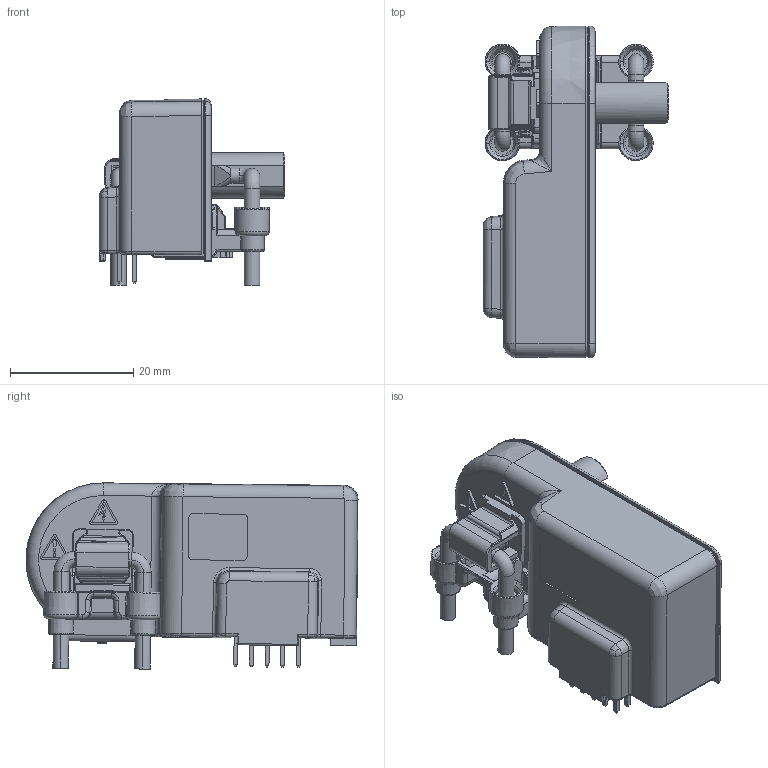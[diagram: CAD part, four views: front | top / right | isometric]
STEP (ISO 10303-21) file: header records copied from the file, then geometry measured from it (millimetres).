
FILE_DESCRIPTION(('Creo Elements/Direct Modeling STEP Export'),'2;1');
FILE_NAME('90.Y2.Q5.000.0_20230612.stp','2023-06-12T 9:15:31',(''),(''),'Creo Elements/Direct Modeling STEP processor for AP214 (Solid Model)','Creo Elements/Direct Modeling 20.3D 14-Nov-2022 (C) Parametric Technology GmbH','');
FILE_SCHEMA(('AUTOMOTIVE_DESIGN { 1 0 10303 214 1 1 1 1 }'));
Products named in the file (2): BBox_A_08042020.1; BBox_A_08042020
Assembly tree (1 placements, depth 2):
  BBox_A_08042020
    BBox_A_08042020.1
Bounding box: 30.2 x 53.95 x 30.26 mm (x, y, z)
Volume: 18466.8 mm3; surface area: 7998 mm2
Topology: 1 solids, 1 shells, 1203 faces, 3073 edges, 1870 vertices
Faces by surface type: plane 411, cylinder 352, bspline 323, torus 80, cone 31, sphere 6
Entity records: 77207 total; most frequent: CARTESIAN_POINT 51307, ORIENTED_EDGE 6104, DIRECTION 3824, EDGE_CURVE 3052, VERTEX_POINT 1870, VECTOR 1278, LINE 1278, AXIS2_PLACEMENT_3D 1273
